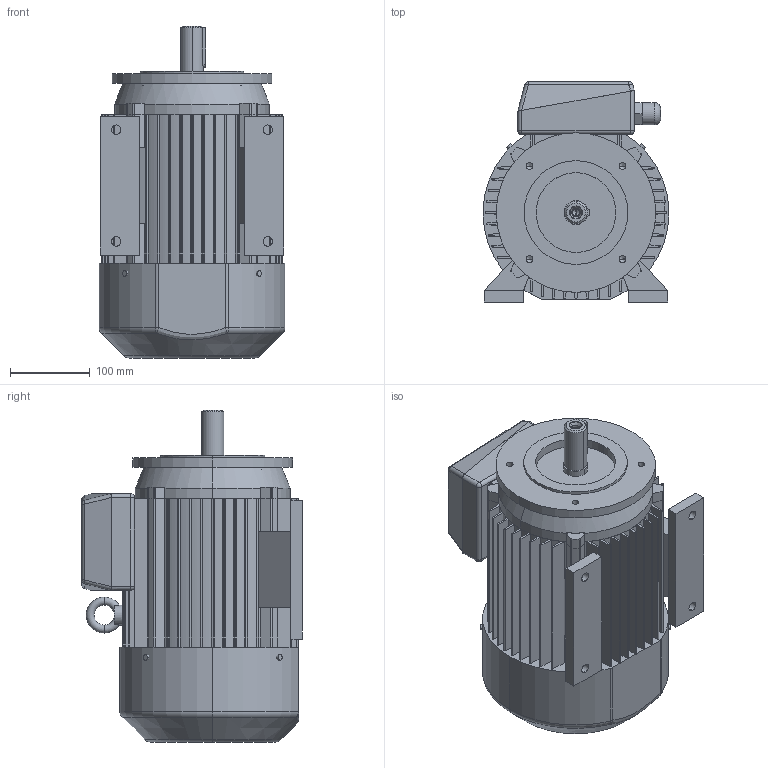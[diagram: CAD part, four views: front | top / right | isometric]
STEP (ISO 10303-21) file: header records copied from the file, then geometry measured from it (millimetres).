
FILE_DESCRIPTION (( 'STEP AP203' ), '1' );
FILE_NAME ('2SIEL112M4-B34-C1.STEP', '2013-01-07T13:16:24', ( 'INDUKTA' ), ( 'CANTONI MOTOR' ), 'SwSTEP 2.0', 'SolidWorks 2003064', '' );
FILE_SCHEMA (( 'CONFIG_CONTROL_DESIGN' ));
Length unit declared in the file: millimetre
Products named in the file (1): 2SIEL112M4-B34-C1
Bounding box: 233 x 276 x 416 mm (x, y, z)
Volume: 13736568.1 mm3; surface area: 809503.3 mm2
Topology: 14 solids, 14 shells, 466 faces, 1246 edges, 787 vertices
Faces by surface type: cylinder 213, plane 207, cone 22, torus 13, sphere 10, bspline 1
Entity records: 15423 total; most frequent: CARTESIAN_POINT 3559, DIRECTION 2552, ORIENTED_EDGE 2452, EDGE_CURVE 1226, AXIS2_PLACEMENT_3D 915, VERTEX_POINT 787, LINE 722, VECTOR 722
